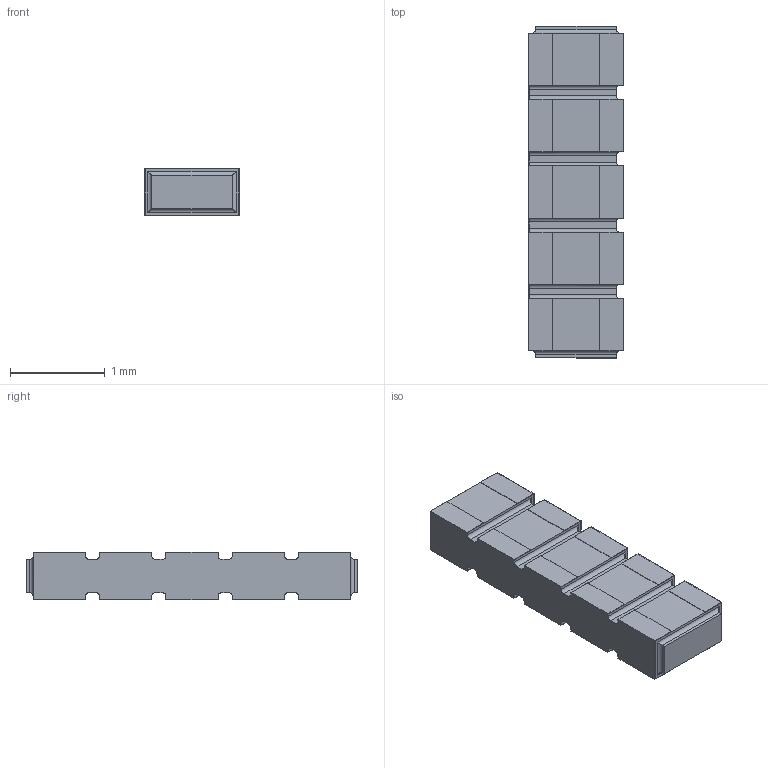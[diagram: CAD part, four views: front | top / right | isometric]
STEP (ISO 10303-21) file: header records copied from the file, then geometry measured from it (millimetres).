
FILE_DESCRIPTION(/* description */ (''),/* implementation_level */ '2;1');
FILE_NAME(/* name */ 'S:\DOCUMENT\AUTOCAD\3D_Modèles\10_3D-pour-VISHAY-COM\PRA\PRA074\PRA074-C2_à_C8\10_IGES\PRA074C5_B-or-N-or-G.stp',/* time_stamp */ '2017-12-19T14:39:14+01:00',/* author */ ('dparmentier'),/* organization */ ('unknown'),/* preprocessor_version */ 'ST-DEVELOPER v17',/* originating_system */ 'Autodesk Inventor 2018',/* authorisation */ '');
FILE_SCHEMA (('AUTOMOTIVE_DESIGN { 1 0 10303 214 3 1 1 }'));
Length unit declared in the file: millimetre
Products named in the file (1): PRA074C5_B-or-N-or-G
Bounding box: 1 x 3.5 x 0.5 mm (x, y, z)
Volume: 1.6 mm3; surface area: 23.4 mm2
Topology: 7 solids, 7 shells, 204 faces, 540 edges, 352 vertices
Faces by surface type: plane 156, cylinder 48
Entity records: 6271 total; most frequent: CARTESIAN_POINT 1097, ORIENTED_EDGE 1080, DIRECTION 1022, EDGE_CURVE 540, LINE 468, VECTOR 468, VERTEX_POINT 352, AXIS2_PLACEMENT_3D 277
